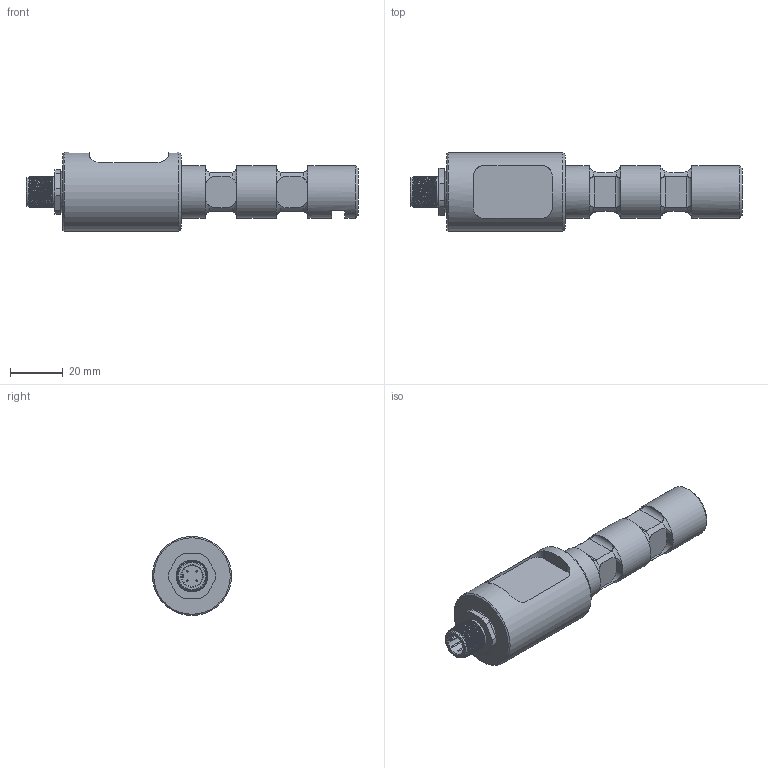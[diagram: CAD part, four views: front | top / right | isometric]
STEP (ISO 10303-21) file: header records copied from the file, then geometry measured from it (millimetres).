
FILE_DESCRIPTION(/* description */ ('Alibre Inc.'),/* implementation_level */ '2;1');
FILE_NAME(/* name */ 'export-8A04F03B-9665-4CE2-9AC7-8E6A47D2273E',/* time_stamp */ '2019-05-07T09:11:30+02:00',/* author */ (''),/* organization */ (''),/* preprocessor_version */ 'ST-DEVELOPER v17',/* originating_system */ 'Alibre',/* authorisation */ '');
FILE_SCHEMA (('CONFIG_CONTROL_DESIGN'));
Length unit declared in the file: centimetre
Products named in the file (35): ID_1
Bounding box: 126 x 30 x 30 mm (x, y, z)
Volume: 111244.1 mm3; surface area: 89756.9 mm2
Topology: 61 solids, 62 shells, 1146 faces, 2752 edges, 1772 vertices
Faces by surface type: plane 837, cylinder 227, bspline 47, torus 26, cone 9
Full cylindrical faces by diameter (mm): 0.5 x44, 0.8 x12, 1.28 x2, 2 x2, 8 x2, 10 x1, 11 x1, 11.5 x1, 13 x2, 14.5 x1, 20 x3, 30 x1
Entity records: 41265 total; most frequent: CARTESIAN_POINT 18862, ORIENTED_EDGE 3846, DIRECTION 3191, EDGE_CURVE 1916, AXIS2_PLACEMENT_3D 1284, VERTEX_POINT 1231, VECTOR 1126, LINE 1126
